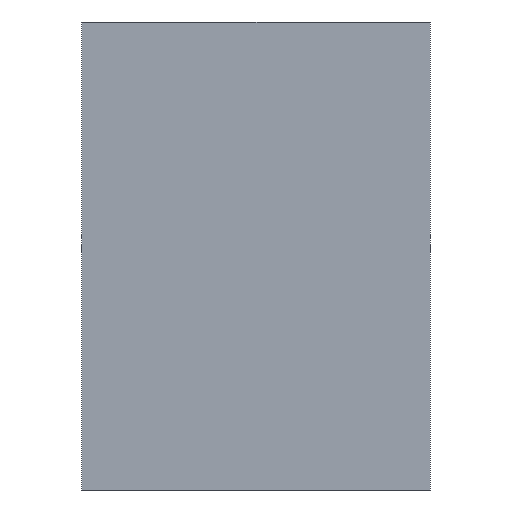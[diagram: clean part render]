
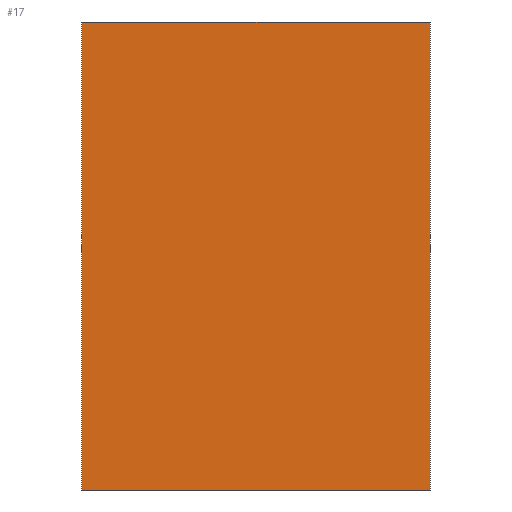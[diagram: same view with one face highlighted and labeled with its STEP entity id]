
A CAD part, left-side view. The second image highlights one B-rep face of the part: STEP entity #17.
In plain terms, the highlighted planar face has unit normal (-1, 0, 0).
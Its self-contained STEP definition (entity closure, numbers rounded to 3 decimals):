
#17 = ADVANCED_FACE('',(#18),#32,.F.);
#18 = FACE_BOUND('',#19,.F.);
#19 = EDGE_LOOP('',(#20,#55,#83,#111));
#20 = ORIENTED_EDGE('',*,*,#21,.F.);
#21 = EDGE_CURVE('',#22,#24,#26,.T.);
#22 = VERTEX_POINT('',#23);
#23 = CARTESIAN_POINT('',(-3.57,-4.9,0.));
#24 = VERTEX_POINT('',#25);
#25 = CARTESIAN_POINT('',(-3.57,-4.9,9.91));
#26 = SURFACE_CURVE('',#27,(#31,#43),.PCURVE_S1.);
#27 = LINE('',#28,#29);
#28 = CARTESIAN_POINT('',(-3.57,-4.9,0.));
#29 = VECTOR('',#30,1.);
#30 = DIRECTION('',(0.,0.,1.));
#31 = PCURVE('',#32,#37);
#32 = PLANE('',#33);
#33 = AXIS2_PLACEMENT_3D('',#34,#35,#36);
#34 = CARTESIAN_POINT('',(-3.57,-4.9,0.));
#35 = DIRECTION('',(1.,0.,-0.));
#36 = DIRECTION('',(0.,0.,1.));
#37 = DEFINITIONAL_REPRESENTATION('',(#38),#42);
#38 = LINE('',#39,#40);
#39 = CARTESIAN_POINT('',(0.,0.));
#40 = VECTOR('',#41,1.);
#41 = DIRECTION('',(1.,0.));
#42 = ( GEOMETRIC_REPRESENTATION_CONTEXT(2) 
PARAMETRIC_REPRESENTATION_CONTEXT() REPRESENTATION_CONTEXT('2D SPACE',''
  ) );
#43 = PCURVE('',#44,#49);
#44 = PLANE('',#45);
#45 = AXIS2_PLACEMENT_3D('',#46,#47,#48);
#46 = CARTESIAN_POINT('',(-3.57,-4.9,0.));
#47 = DIRECTION('',(-0.,1.,0.));
#48 = DIRECTION('',(0.,0.,1.));
#49 = DEFINITIONAL_REPRESENTATION('',(#50),#54);
#50 = LINE('',#51,#52);
#51 = CARTESIAN_POINT('',(0.,0.));
#52 = VECTOR('',#53,1.);
#53 = DIRECTION('',(1.,0.));
#54 = ( GEOMETRIC_REPRESENTATION_CONTEXT(2) 
PARAMETRIC_REPRESENTATION_CONTEXT() REPRESENTATION_CONTEXT('2D SPACE',''
  ) );
#55 = ORIENTED_EDGE('',*,*,#56,.T.);
#56 = EDGE_CURVE('',#22,#57,#59,.T.);
#57 = VERTEX_POINT('',#58);
#58 = CARTESIAN_POINT('',(-3.57,2.47,0.));
#59 = SURFACE_CURVE('',#60,(#64,#71),.PCURVE_S1.);
#60 = LINE('',#61,#62);
#61 = CARTESIAN_POINT('',(-3.57,-4.9,0.));
#62 = VECTOR('',#63,1.);
#63 = DIRECTION('',(-0.,1.,0.));
#64 = PCURVE('',#32,#65);
#65 = DEFINITIONAL_REPRESENTATION('',(#66),#70);
#66 = LINE('',#67,#68);
#67 = CARTESIAN_POINT('',(0.,0.));
#68 = VECTOR('',#69,1.);
#69 = DIRECTION('',(0.,-1.));
#70 = ( GEOMETRIC_REPRESENTATION_CONTEXT(2) 
PARAMETRIC_REPRESENTATION_CONTEXT() REPRESENTATION_CONTEXT('2D SPACE',''
  ) );
#71 = PCURVE('',#72,#77);
#72 = PLANE('',#73);
#73 = AXIS2_PLACEMENT_3D('',#74,#75,#76);
#74 = CARTESIAN_POINT('',(-3.57,-4.9,0.));
#75 = DIRECTION('',(0.,0.,1.));
#76 = DIRECTION('',(1.,0.,-0.));
#77 = DEFINITIONAL_REPRESENTATION('',(#78),#82);
#78 = LINE('',#79,#80);
#79 = CARTESIAN_POINT('',(0.,0.));
#80 = VECTOR('',#81,1.);
#81 = DIRECTION('',(0.,1.));
#82 = ( GEOMETRIC_REPRESENTATION_CONTEXT(2) 
PARAMETRIC_REPRESENTATION_CONTEXT() REPRESENTATION_CONTEXT('2D SPACE',''
  ) );
#83 = ORIENTED_EDGE('',*,*,#84,.T.);
#84 = EDGE_CURVE('',#57,#85,#87,.T.);
#85 = VERTEX_POINT('',#86);
#86 = CARTESIAN_POINT('',(-3.57,2.47,9.91));
#87 = SURFACE_CURVE('',#88,(#92,#99),.PCURVE_S1.);
#88 = LINE('',#89,#90);
#89 = CARTESIAN_POINT('',(-3.57,2.47,0.));
#90 = VECTOR('',#91,1.);
#91 = DIRECTION('',(0.,0.,1.));
#92 = PCURVE('',#32,#93);
#93 = DEFINITIONAL_REPRESENTATION('',(#94),#98);
#94 = LINE('',#95,#96);
#95 = CARTESIAN_POINT('',(0.,-7.37));
#96 = VECTOR('',#97,1.);
#97 = DIRECTION('',(1.,0.));
#98 = ( GEOMETRIC_REPRESENTATION_CONTEXT(2) 
PARAMETRIC_REPRESENTATION_CONTEXT() REPRESENTATION_CONTEXT('2D SPACE',''
  ) );
#99 = PCURVE('',#100,#105);
#100 = PLANE('',#101);
#101 = AXIS2_PLACEMENT_3D('',#102,#103,#104);
#102 = CARTESIAN_POINT('',(-3.57,2.47,0.));
#103 = DIRECTION('',(-0.,1.,0.));
#104 = DIRECTION('',(0.,0.,1.));
#105 = DEFINITIONAL_REPRESENTATION('',(#106),#110);
#106 = LINE('',#107,#108);
#107 = CARTESIAN_POINT('',(0.,0.));
#108 = VECTOR('',#109,1.);
#109 = DIRECTION('',(1.,0.));
#110 = ( GEOMETRIC_REPRESENTATION_CONTEXT(2) 
PARAMETRIC_REPRESENTATION_CONTEXT() REPRESENTATION_CONTEXT('2D SPACE',''
  ) );
#111 = ORIENTED_EDGE('',*,*,#112,.F.);
#112 = EDGE_CURVE('',#24,#85,#113,.T.);
#113 = SURFACE_CURVE('',#114,(#118,#125),.PCURVE_S1.);
#114 = LINE('',#115,#116);
#115 = CARTESIAN_POINT('',(-3.57,-4.9,9.91));
#116 = VECTOR('',#117,1.);
#117 = DIRECTION('',(-0.,1.,0.));
#118 = PCURVE('',#32,#119);
#119 = DEFINITIONAL_REPRESENTATION('',(#120),#124);
#120 = LINE('',#121,#122);
#121 = CARTESIAN_POINT('',(9.91,0.));
#122 = VECTOR('',#123,1.);
#123 = DIRECTION('',(0.,-1.));
#124 = ( GEOMETRIC_REPRESENTATION_CONTEXT(2) 
PARAMETRIC_REPRESENTATION_CONTEXT() REPRESENTATION_CONTEXT('2D SPACE',''
  ) );
#125 = PCURVE('',#126,#131);
#126 = PLANE('',#127);
#127 = AXIS2_PLACEMENT_3D('',#128,#129,#130);
#128 = CARTESIAN_POINT('',(-3.57,-4.9,9.91));
#129 = DIRECTION('',(0.,0.,1.));
#130 = DIRECTION('',(1.,0.,-0.));
#131 = DEFINITIONAL_REPRESENTATION('',(#132),#136);
#132 = LINE('',#133,#134);
#133 = CARTESIAN_POINT('',(0.,0.));
#134 = VECTOR('',#135,1.);
#135 = DIRECTION('',(0.,1.));
#136 = ( GEOMETRIC_REPRESENTATION_CONTEXT(2) 
PARAMETRIC_REPRESENTATION_CONTEXT() REPRESENTATION_CONTEXT('2D SPACE',''
  ) );
